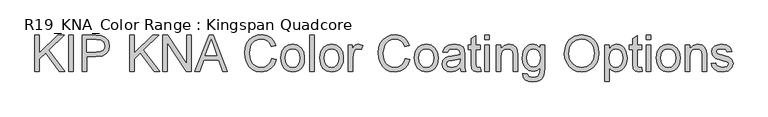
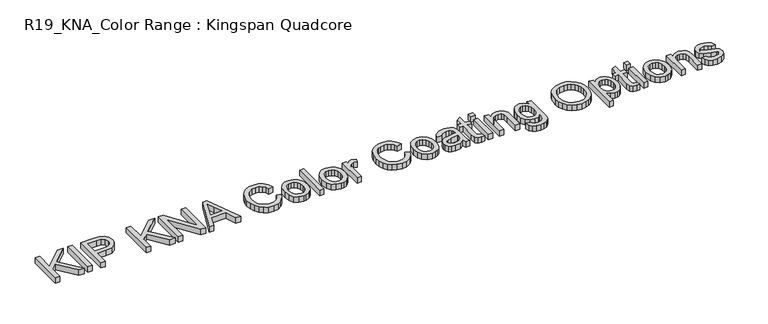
"""IFC4 building model written with IfcOpenShell, lengths in millimetres: proxy geometry, R19_KNA_Color Range : Kingspan Quadcore."""

from ifc_helpers import new_model, si_unit, origin, origin_with_axes, place, context, project, spatial, polyline, outline, extrude, source, transform, mapped, element, save


def r19_kna_color_range_kingspan_quadcore_91b79b7c(model_context):
    return source(origin(), model_context, "Body", "SweptSolid", [
        extrude(outline(polyline([(-1452.6924226, 700.0), (-1452.6924226, 850.6844652), (-1433.8568644, 850.6844652), (-1433.8568644, 776.9241252), (-1356.6016454, 850.6844652), (-1330.2612946, 850.6844652), (-1395.1188903, 788.7331372), (-1327.9068498, 700.0), (-1350.9362627, 700.0), (-1408.4730067, 776.0044202), (-1433.8568644, 751.7977849), (-1433.8568644, 700.0), (-1452.6924226, 700.0)])), origin_with_axes(), (0.0, 0.0, 1.0), 25.0),
        extrude(outline(polyline([(-1311.4257364, 700.0), (-1311.4257364, 850.6844652), (-1292.5901783, 850.6844652), (-1292.5901783, 700.0), (-1311.4257364, 700.0)])), origin_with_axes(), (0.0, 0.0, 1.0), 25.0),
        extrude(outline(polyline([(-1254.9190619, 700.0), (-1254.9190619, 850.6844652), (-1199.0745751, 850.6844652), (-1176.560197, 849.2497254), (-1158.2580677, 842.2047852), (-1146.3938734, 827.6366582), (-1141.905713, 807.0904488), (-1144.936141, 789.3309455), (-1154.0274248, 774.5328922), (-1171.0281715, 764.5448961), (-1197.7869881, 761.215564), (-1236.0835038, 761.215564), (-1236.0835038, 700.0), (-1254.9190619, 700.0)]), holes=[polyline([(-1236.0835038, 780.0511222), (-1196.6833421, 780.0511222), (-1179.9814995, 781.7801675), (-1168.9450397, 786.9673037), (-1162.7922133, 795.2906338), (-1160.7412712, 806.4282612), (-1165.5789194, 822.0264578), (-1178.2892424, 830.5613201), (-1197.1248005, 831.8489071), (-1236.0835038, 831.8489071), (-1236.0835038, 780.0511222)])]), origin_with_axes(), (0.0, 0.0, 1.0), 25.0),
        extrude(outline(polyline([(-1057.1457013, 700.0), (-1057.1457013, 850.6844652), (-1038.3101432, 850.6844652), (-1038.3101432, 776.9241252), (-961.0549242, 850.6844652), (-934.7145733, 850.6844652), (-999.5721691, 788.7331372), (-932.3601286, 700.0), (-955.3895415, 700.0), (-1012.9262855, 776.0044202), (-1038.3101432, 751.7977849), (-1038.3101432, 700.0), (-1057.1457013, 700.0)])), origin_with_axes(), (0.0, 0.0, 1.0), 25.0),
        extrude(outline(polyline([(-918.23346, 700.0), (-918.23346, 850.6844652), (-898.0735266, 850.6844652), (-819.3467797, 731.3067578), (-819.3467797, 850.6844652), (-800.5112215, 850.6844652), (-800.5112215, 700.0), (-820.6711548, 700.0), (-899.3979018, 819.4144956), (-899.3979018, 700.0), (-918.23346, 700.0)])), origin_with_axes(), (0.0, 0.0, 1.0), 25.0),
        extrude(outline(polyline([(-785.0969659, 700.0), (-724.9482597, 850.6844652), (-708.9086047, 850.6844652), (-648.7598985, 700.0), (-668.6623144, 700.0), (-685.91598, 747.0888954), (-747.9776726, 747.0888954), (-765.19455, 700.0), (-785.0969659, 700.0)]), holes=[polyline([(-741.0614911, 765.9244535), (-692.7953733, 765.9244535), (-706.3702189, 802.9701704), (-716.9284322, 831.8489071), (-726.3094231, 806.207532), (-741.0614911, 765.9244535)])]), origin_with_axes(), (0.0, 0.0, 1.0), 25.0),
        extrude(outline(polyline([(-463.8256195, 753.5636185), (-444.9900614, 748.7075762), (-453.6812735, 726.7588166), (-467.3204985, 710.7237602), (-485.2363516, 700.9151065), (-506.7574484, 697.6455552), (-528.6050403, 700.1195616), (-545.9552749, 707.5415809), (-559.2542091, 719.6540956), (-568.9478996, 736.1995883), (-574.8662012, 755.6513488), (-576.8389684, 776.4826668), (-574.6086838, 798.454419), (-567.9178301, 817.4279329), (-557.115895, 832.8008017), (-542.5523665, 843.9706188), (-525.2803068, 850.7718372), (-506.3527782, 853.03891), (-485.7008027, 850.1050511), (-468.6264796, 841.3034743), (-455.6632378, 827.1768057), (-447.3445061, 808.2676712), (-466.1800643, 803.7795108), (-472.7099697, 817.5153048), (-481.6311081, 826.9376824), (-493.053844, 832.3869345), (-507.0885422, 834.2033518), (-523.2661529, 832.1891979), (-536.55589, 826.1467361), (-546.6404552, 816.710563), (-553.2025502, 804.5152748), (-558.0034103, 776.519455), (-556.5824661, 759.1186366), (-552.3196335, 744.072263), (-545.0539641, 731.9551498), (-534.6245095, 723.3421126), (-522.1211202, 718.1963632), (-508.6336465, 716.4811134), (-492.9112898, 718.8171641), (-479.8100922, 725.8253161), (-469.9186651, 737.431993), (-463.8256195, 753.5636185)])), origin_with_axes(), (0.0, 0.0, 1.0), 25.0),
        extrude(outline(polyline([(-426.1545032, 755.3294521), (-422.0802101, 782.0100938), (-409.8573308, 800.7628785), (-394.7557749, 809.9507313), (-376.6743749, 813.0133489), (-356.886922, 809.2839452), (-341.0817918, 798.095734), (-330.7213151, 780.3316322), (-327.2678229, 756.8745565), (-328.7945332, 737.8458603), (-333.374664, 723.3605067), (-340.8748582, 712.5125864), (-351.1617585, 704.3961898), (-363.3800393, 699.3332139), (-376.6743749, 697.6455552), (-396.700951, 701.3611634), (-412.4876871, 712.5079878), (-422.7377992, 730.6445702), (-426.1545032, 755.3294521)]), holes=[polyline([(-407.3189451, 755.3662403), (-405.1392442, 738.3195083), (-398.6001418, 726.174804), (-388.7592984, 718.904536), (-376.6743749, 716.4811134), (-364.6446336, 718.9183316), (-354.8221843, 726.2299863), (-348.2830819, 738.535639), (-346.1033811, 755.9548515), (-348.2968775, 772.5049427), (-354.8773666, 784.4841002), (-364.7136115, 791.7543681), (-376.6743749, 794.1777908), (-388.7592984, 791.7635652), (-398.6001418, 784.5208884), (-405.1392442, 772.4037752), (-407.3189451, 755.3662403)])]), origin_with_axes(), (0.0, 0.0, 1.0), 25.0),
        extrude(outline(polyline([(-306.07782, 700.0), (-306.07782, 850.6844652), (-287.2422618, 850.6844652), (-287.2422618, 700.0), (-306.07782, 700.0)])), origin_with_axes(), (0.0, 0.0, 1.0), 25.0),
        extrude(outline(polyline([(-263.6978141, 755.3294521), (-259.623521, 782.0100938), (-247.4006418, 800.7628785), (-232.2990859, 809.9507313), (-214.2176858, 813.0133489), (-194.430233, 809.2839452), (-178.6251028, 798.095734), (-168.2646261, 780.3316322), (-164.8111338, 756.8745565), (-166.3378441, 737.8458603), (-170.917975, 723.3605067), (-178.4181691, 712.5125864), (-188.7050694, 704.3961898), (-200.9233502, 699.3332139), (-214.2176858, 697.6455552), (-234.2442619, 701.3611634), (-250.030998, 712.5079878), (-260.2811101, 730.6445702), (-263.6978141, 755.3294521)]), holes=[polyline([(-244.862256, 755.3662403), (-242.6825552, 738.3195083), (-236.1434527, 726.174804), (-226.3026093, 718.904536), (-214.2176858, 716.4811134), (-202.1879445, 718.9183316), (-192.3654953, 726.2299863), (-185.8263928, 738.535639), (-183.646692, 755.9548515), (-185.8401884, 772.5049427), (-192.4206776, 784.4841002), (-202.2569224, 791.7543681), (-214.2176858, 794.1777908), (-226.3026093, 791.7635652), (-236.1434527, 784.5208884), (-242.6825552, 772.4037752), (-244.862256, 755.3662403)])]), origin_with_axes(), (0.0, 0.0, 1.0), 25.0),
        extrude(outline(polyline([(-143.6211309, 700.0), (-143.6211309, 810.6589041), (-127.1400175, 810.6589041), (-127.1400175, 794.2881554), (-115.4413701, 809.3713172), (-103.6691462, 813.0133489), (-84.7600117, 807.2008134), (-91.0507938, 790.3150298), (-104.2945456, 794.1777908), (-114.9447294, 790.4621826), (-121.7321522, 780.1614867), (-124.7855728, 758.1621434), (-124.7855728, 700.0), (-143.6211309, 700.0)])), origin_with_axes(), (0.0, 0.0, 1.0), 25.0),
        extrude(outline(polyline([(94.1777908, 753.5636185), (113.0133489, 748.7075762), (104.3221368, 726.7588166), (90.6829118, 710.7237602), (72.7670586, 700.9151065), (51.2459619, 697.6455552), (29.3983699, 700.1195616), (12.0481353, 707.5415809), (-1.2507988, 719.6540956), (-10.9444894, 736.1995883), (-16.862791, 755.6513488), (-18.8355582, 776.4826668), (-16.6052736, 798.454419), (-9.9144198, 817.4279329), (0.8875153, 832.8008017), (15.4510438, 843.9706188), (32.7231035, 850.7718372), (51.6506321, 853.03891), (72.3026076, 850.1050511), (89.3769307, 841.3034743), (102.3401725, 827.1768057), (110.6589041, 808.2676712), (91.823346, 803.7795108), (85.2934406, 817.5153048), (76.3723022, 826.9376824), (64.9495662, 832.3869345), (50.9148681, 834.2033518), (34.7372574, 832.1891979), (21.4475203, 826.1467361), (11.3629551, 816.710563), (4.80086, 804.5152748), (0.0, 776.519455), (1.4209442, 759.1186366), (5.6837768, 744.072263), (12.9494462, 731.9551498), (23.3789008, 723.3421126), (35.8822901, 718.1963632), (49.3697638, 716.4811134), (65.0921205, 718.8171641), (78.1933181, 725.8253161), (88.0847452, 737.431993), (94.1777908, 753.5636185)])), origin_with_axes(), (0.0, 0.0, 1.0), 25.0),
        extrude(outline(polyline([(131.8489071, 755.3294521), (135.9232002, 782.0100938), (148.1460795, 800.7628785), (163.2476354, 809.9507313), (181.3290354, 813.0133489), (201.1164882, 809.2839452), (216.9216185, 798.095734), (227.2820951, 780.3316322), (230.7355874, 756.8745565), (229.2088771, 737.8458603), (224.6287463, 723.3605067), (217.1285521, 712.5125864), (206.8416518, 704.3961898), (194.623371, 699.3332139), (181.3290354, 697.6455552), (161.3024593, 701.3611634), (145.5157232, 712.5079878), (135.2656111, 730.6445702), (131.8489071, 755.3294521)]), holes=[polyline([(150.6844652, 755.3662403), (152.864166, 738.3195083), (159.4032685, 726.174804), (169.2441119, 718.904536), (181.3290354, 716.4811134), (193.3587767, 718.9183316), (203.1812259, 726.2299863), (209.7203284, 738.535639), (211.9000292, 755.9548515), (209.7065328, 772.5049427), (203.1260436, 784.4841002), (193.2897988, 791.7543681), (181.3290354, 794.1777908), (169.2441119, 791.7635652), (159.4032685, 784.5208884), (152.864166, 772.4037752), (150.6844652, 755.3662403)])]), origin_with_axes(), (0.0, 0.0, 1.0), 25.0),
        extrude(outline(polyline([(322.5589334, 714.1266686), (304.2935923, 701.3611634), (284.1152649, 697.6455552), (268.374514, 699.8804384), (256.7632385, 706.5850877), (249.6033352, 716.7662219), (247.2167008, 729.4305596), (250.8219443, 744.3297804), (260.2949057, 755.1455111), (273.4834752, 761.3259286), (289.7806476, 764.15862), (322.4485688, 770.6333431), (322.5589334, 774.8271978), (321.2621493, 783.2333014), (317.3717972, 788.7331372), (308.6713881, 792.8166274), (296.5496763, 794.1777908), (277.493389, 790.5541531), (268.4067037, 777.6966774), (249.5711455, 780.0511222), (257.7197317, 798.4452219), (274.1272687, 809.2241644), (298.9776975, 813.0133489), (321.8047753, 809.6656228), (334.6990392, 801.2595192), (340.4747865, 788.4756198), (341.3944915, 771.9945065), (341.3944915, 748.5604234), (342.3509847, 715.8373199), (346.1033811, 700.0), (327.2678229, 700.0), (322.5589334, 714.1266686)]), holes=[polyline([(322.5589334, 751.7977849), (292.1718806, 746.0220376), (275.9666787, 742.968617), (268.6274329, 738.0022101), (266.0522589, 730.7549348), (271.6624593, 720.5646035), (288.1251786, 716.4811134), (307.181466, 720.9876678), (319.4687246, 731.895369), (322.4485688, 746.463496), (322.5589334, 751.7977849)])]), origin_with_axes(), (0.0, 0.0, 1.0), 25.0),
        extrude(outline(polyline([(407.3189451, 715.7085612), (409.6733898, 699.448177), (395.5835094, 697.6455552), (379.8013718, 700.7725522), (371.9286971, 708.9763207), (369.6478288, 730.3502646), (369.6478288, 791.823346), (355.5211601, 791.823346), (355.5211601, 810.6589041), (369.6478288, 810.6589041), (369.6478288, 837.551078), (388.4833869, 848.6243261), (388.4833869, 810.6589041), (407.3189451, 810.6589041), (407.3189451, 791.823346), (388.4833869, 791.823346), (388.4833869, 730.9020876), (389.4766683, 721.1900029), (392.6956358, 717.7503063), (399.1151766, 716.4811134), (407.3189451, 715.7085612)])), origin_with_axes(), (0.0, 0.0, 1.0), 25.0),
        extrude(outline(polyline([(426.1545032, 831.8489071), (426.1545032, 850.6844652), (444.9900614, 850.6844652), (444.9900614, 831.8489071), (426.1545032, 831.8489071)])), origin_with_axes(), (0.0, 0.0, 1.0), 25.0),
        extrude(outline(polyline([(426.1545032, 700.0), (426.1545032, 810.6589041), (444.9900614, 810.6589041), (444.9900614, 700.0), (426.1545032, 700.0)])), origin_with_axes(), (0.0, 0.0, 1.0), 25.0),
        extrude(outline(polyline([(473.2433986, 700.0), (473.2433986, 810.6589041), (492.0789567, 810.6589041), (492.0789567, 795.2078604), (506.4815369, 808.5619768), (526.1448295, 813.0133489), (543.931924, 809.4264995), (556.0720298, 800.0087204), (561.7190184, 786.1579633), (562.7122998, 767.9478045), (562.7122998, 700.0), (543.8767417, 700.0), (543.8767417, 765.4094187), (541.7062379, 782.0744731), (534.0358983, 790.8852469), (521.1048462, 794.1777908), (510.0729848, 792.3291837), (500.6690013, 786.7833627), (494.2264679, 776.0687996), (492.0789567, 758.7139664), (492.0789567, 700.0), (473.2433986, 700.0)])), origin_with_axes(), (0.0, 0.0, 1.0), 25.0),
        extrude(outline(polyline([(583.9023027, 690.5822209), (602.7378609, 688.2277762), (608.844702, 678.2949623), (627.1284372, 674.1011075), (646.4054537, 678.8467853), (655.6025036, 692.1641135), (656.8900906, 714.1266686), (643.6279447, 703.5316672), (627.459531, 700.0), (608.0399602, 704.1110813), (593.5592051, 716.4443252), (584.5506948, 734.5257252), (581.547858, 755.8812751), (586.9373292, 785.0727114), (593.531614, 796.9231102), (602.5355258, 805.7292854), (613.6409635, 811.192333), (626.539826, 813.0133489), (643.3428361, 808.8930706), (656.8900906, 796.5322355), (656.8900906, 810.6589041), (675.7256487, 810.6589041), (675.7256487, 715.11995), (674.4380618, 693.0608259), (670.5753008, 678.5340856), (663.9212352, 668.9001758), (654.2597343, 661.5195433), (641.8023303, 656.8290479), (626.7605552, 655.2655494), (609.2355766, 657.4682428), (595.4354033, 664.0763232), (586.5832428, 675.1081845), (583.9023027, 690.5822209)]), holes=[polyline([(600.3834161, 757.1688621), (602.3929715, 739.8922039), (608.4216377, 728.0142139), (617.4853304, 721.1302221), (628.5999652, 718.8355582), (639.6318265, 721.1164265), (648.7415044, 727.9590316), (654.852944, 739.6852702), (656.8900906, 756.6170391), (654.7931632, 772.9464011), (648.5023811, 784.7048294), (639.259346, 791.8095504), (628.3056596, 794.1777908), (617.5497097, 791.8463386), (608.5320023, 784.8519822), (602.4205627, 773.2682979), (600.3834161, 757.1688621)])]), origin_with_axes(), (0.0, 0.0, 1.0), 25.0),
        extrude(outline(polyline([(758.1312157, 773.3556698), (763.1528049, 806.6765816), (769.4297914, 820.2951132), (778.2175726, 831.8856953), (801.2193943, 847.7506063), (830.0521457, 853.03891), (849.8166059, 850.5557065), (867.539321, 843.1060961), (882.2546008, 831.2143106), (892.9967551, 815.4045819), (899.5634487, 796.440265), (901.7523466, 775.0847152), (899.4484856, 753.4440568), (892.5369026, 734.2130256), (881.3992752, 718.3757057), (866.4172809, 706.9161815), (848.8463171, 699.9632118), (829.9417811, 697.6455552), (809.8738183, 700.2069336), (792.0499356, 707.8910688), (777.371444, 720.0035835), (766.7396543, 735.8501004), (760.2833253, 754.0832518), (758.1312157, 773.3556698)]), holes=[polyline([(776.9667738, 773.1717288), (780.7329657, 749.59969), (792.0315415, 731.6378516), (809.0138941, 720.2702979), (829.8314165, 716.4811134), (850.9524416, 720.3070861), (867.9623853, 731.7850044), (879.1781876, 750.2986658), (882.9167884, 775.231868), (881.3165017, 791.9061194), (876.5156417, 806.3178966), (868.6383685, 818.103916), (857.8088423, 826.9008942), (844.7444329, 832.3777374), (830.1625103, 834.2033518), (809.9014094, 830.6854803), (792.675335, 820.1318655), (780.8939141, 801.3560882), (776.9667738, 773.1717288)])]), origin_with_axes(), (0.0, 0.0, 1.0), 25.0),
        extrude(outline(polyline([(925.2967943, 657.6199942), (925.2967943, 810.6589041), (944.1323524, 810.6589041), (944.1323524, 792.191228), (957.1553751, 807.8078187), (974.7401344, 813.0133489), (987.4780485, 811.192333), (998.6156759, 805.7292854), (1007.6839671, 796.9552998), (1014.2138725, 785.2014701), (1019.474585, 756.1755807), (1017.9892615, 740.0669478), (1013.5332908, 725.6597692), (1006.2492273, 713.6852102), (996.2796252, 704.8744364), (984.6683498, 699.4527755), (972.4592661, 697.6455552), (956.0701232, 702.4832035), (944.1323524, 714.7152798), (944.1323524, 657.6199942), (925.2967943, 657.6199942)]), holes=[polyline([(944.1323524, 754.4465353), (946.169499, 737.5607517), (952.2809386, 725.7517397), (961.298646, 718.79877), (972.0545959, 716.4811134), (982.9852896, 718.8815434), (992.2329233, 726.0828335), (998.537501, 738.3241068), (1000.6390269, 755.8444869), (998.5880848, 772.6382999), (992.4352584, 784.6128589), (983.4313466, 791.7865578), (972.827148, 794.1777908), (962.1815628, 791.6348065), (952.8327616, 784.0058536), (946.3074547, 771.5300554), (944.1323524, 754.4465353)])]), origin_with_axes(), (0.0, 0.0, 1.0), 25.0),
        extrude(outline(polyline([(1080.690149, 715.7085612), (1083.0445938, 699.448177), (1068.9547134, 697.6455552), (1053.1725758, 700.7725522), (1045.2999011, 708.9763207), (1043.0190327, 730.3502646), (1043.0190327, 791.823346), (1028.8923641, 791.823346), (1028.8923641, 810.6589041), (1043.0190327, 810.6589041), (1043.0190327, 837.551078), (1061.8545909, 848.6243261), (1061.8545909, 810.6589041), (1080.690149, 810.6589041), (1080.690149, 791.823346), (1061.8545909, 791.823346), (1061.8545909, 730.9020876), (1062.8478723, 721.1900029), (1066.0668397, 717.7503063), (1072.4863805, 716.4811134), (1080.690149, 715.7085612)])), origin_with_axes(), (0.0, 0.0, 1.0), 25.0),
        extrude(outline(polyline([(1099.5257072, 831.8489071), (1099.5257072, 850.6844652), (1118.3612653, 850.6844652), (1118.3612653, 831.8489071), (1099.5257072, 831.8489071)])), origin_with_axes(), (0.0, 0.0, 1.0), 25.0),
        extrude(outline(polyline([(1099.5257072, 700.0), (1099.5257072, 810.6589041), (1118.3612653, 810.6589041), (1118.3612653, 700.0), (1099.5257072, 700.0)])), origin_with_axes(), (0.0, 0.0, 1.0), 25.0),
        extrude(outline(polyline([(1141.905713, 755.3294521), (1145.9800061, 782.0100938), (1158.2028854, 800.7628785), (1173.3044413, 809.9507313), (1191.3858414, 813.0133489), (1211.1732942, 809.2839452), (1226.9784244, 798.095734), (1237.3389011, 780.3316322), (1240.7923933, 756.8745565), (1239.2656831, 737.8458603), (1234.6855522, 723.3605067), (1227.185358, 712.5125864), (1216.8984577, 704.3961898), (1204.680177, 699.3332139), (1191.3858414, 697.6455552), (1171.3592653, 701.3611634), (1155.5725291, 712.5079878), (1145.3224171, 730.6445702), (1141.905713, 755.3294521)]), holes=[polyline([(1160.7412712, 755.3662403), (1162.920972, 738.3195083), (1169.4600745, 726.174804), (1179.3009178, 718.904536), (1191.3858414, 716.4811134), (1203.4155826, 718.9183316), (1213.2380319, 726.2299863), (1219.7771344, 738.535639), (1221.9568352, 755.9548515), (1219.7633388, 772.5049427), (1213.1828496, 784.4841002), (1203.3466047, 791.7543681), (1191.3858414, 794.1777908), (1179.3009178, 791.7635652), (1169.4600745, 784.5208884), (1162.920972, 772.4037752), (1160.7412712, 755.3662403)])]), origin_with_axes(), (0.0, 0.0, 1.0), 25.0),
        extrude(outline(polyline([(1261.9823963, 700.0), (1261.9823963, 810.6589041), (1280.8179544, 810.6589041), (1280.8179544, 795.2078604), (1295.2205345, 808.5619768), (1314.8838272, 813.0133489), (1332.6709216, 809.4264995), (1344.8110275, 800.0087204), (1350.4580161, 786.1579633), (1351.4512975, 767.9478045), (1351.4512975, 700.0), (1332.6157393, 700.0), (1332.6157393, 765.4094187), (1330.4452356, 782.0744731), (1322.774896, 790.8852469), (1309.8438438, 794.1777908), (1298.8119825, 792.3291837), (1289.407999, 786.7833627), (1282.9654656, 776.0687996), (1280.8179544, 758.7139664), (1280.8179544, 700.0), (1261.9823963, 700.0)])), origin_with_axes(), (0.0, 0.0, 1.0), 25.0),
        extrude(outline(polyline([(1370.2868556, 732.9622268), (1389.1224138, 735.3166715), (1392.0930609, 727.2600558), (1397.8412171, 721.3371557), (1417.8172094, 716.4811134), (1437.0206496, 720.9324855), (1443.2746435, 731.3803342), (1441.7019479, 736.1811942), (1436.9838614, 739.8416201), (1417.5964802, 745.2126972), (1389.2327784, 754.4281412), (1376.8535492, 765.1886895), (1372.6413004, 780.3822159), (1376.0258148, 794.4169141), (1385.2596528, 805.1406742), (1397.2342118, 810.7140864), (1413.4394137, 813.0133489), (1436.358462, 809.3161349), (1450.926589, 799.3097446), (1457.4013121, 782.4055669), (1438.5657539, 780.0511222), (1431.4840255, 790.4437885), (1414.9109416, 794.1777908), (1396.8847239, 790.6093354), (1391.4768586, 782.2952023), (1393.7209387, 776.8137606), (1400.7474848, 772.656694), (1416.9710808, 768.6467803), (1444.6174128, 759.7808242), (1457.4564944, 749.7376457), (1462.1102016, 733.366897), (1456.647154, 715.3406792), (1440.8834105, 702.2624743), (1417.559692, 697.6455552), (1398.567784, 699.8712413), (1384.7078298, 706.5482995), (1375.4555977, 717.6031535), (1370.2868556, 732.9622268)])), origin_with_axes(), (0.0, 0.0, 1.0), 25.0),
    ])


if __name__ == "__main__":
    model = new_model("IFC4")
    model_context = context("Model", 3, world=origin())
    ifc_project = project(units=[si_unit("LENGTHUNIT", "METRE", prefix="MILLI")], contexts=[model_context])
    site = spatial("IfcSite", under=ifc_project)
    building = spatial("IfcBuilding", under=site)
    placement = place(None, origin())
    r19_kna_color_range_kingspan_quadcore_shape = r19_kna_color_range_kingspan_quadcore_91b79b7c(model_context)
    element("IfcBuildingElementProxy", 1, Name="R19_KNA_Color Range : Kingspan Quadcore", ObjectType="R19_KNA_Color Range : Kingspan Quadcore", at=placement, inside=building, context=model_context, shape_type="MappedRepresentation", body=[
        mapped(r19_kna_color_range_kingspan_quadcore_shape, transform((0.0, 0.0, 0.0), x_axis=(1.0, 0.0, 0.0), y_axis=(0.0, 1.0, 0.0), z_axis=(0.0, 0.0, 1.0))),
    ])
    save(model, "model.ifc")
